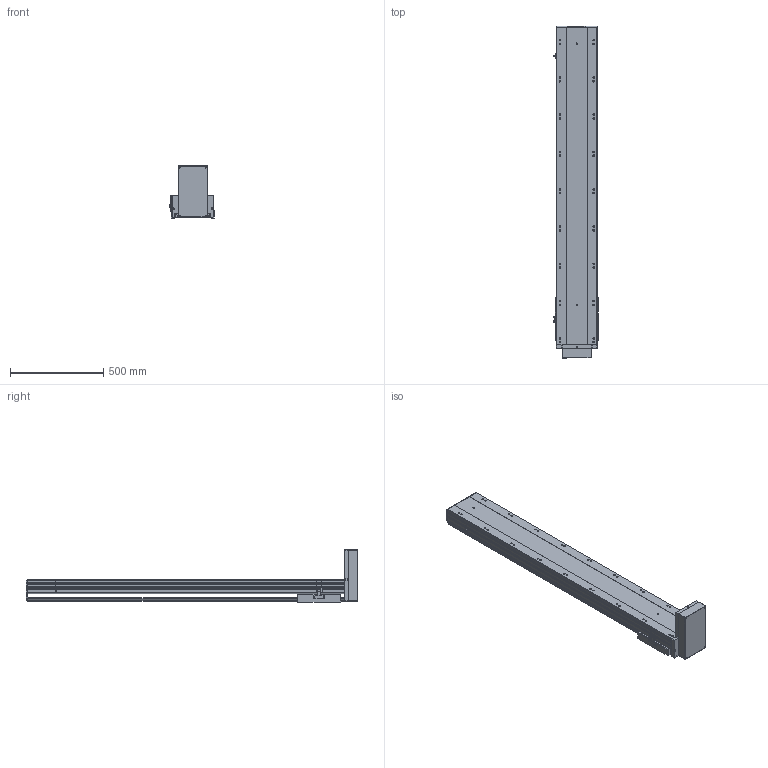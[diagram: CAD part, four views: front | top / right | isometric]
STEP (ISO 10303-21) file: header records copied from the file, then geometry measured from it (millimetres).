
FILE_DESCRIPTION (( 'STEP AP203' ), '1' );
FILE_NAME ('BTH22-L05-1400-BM-PCD145-M6-95.STEP', '2022-05-08T08:19:52', ( 'CXY' ), ( 'BT' ), 'SwSTEP 2.0', 'SolidWorks 2016', '' );
FILE_SCHEMA (( 'CONFIG_CONTROL_DESIGN' ));
Length unit declared in the file: millimetre
Products named in the file (7): BTH22-L05-1400-BM-PCD145-M6-95; BTH22-BM-04; H130-PCD145; BTH22-BM-HZ; BTH22-BM-01; BTH22-BM-06-M100; BTH22-BM-菁釱
Assembly tree (8 placements, depth 2):
  BTH22-L05-1400-BM-PCD145-M6-95
    BTH22-BM-菁釱
    BTH22-BM-01
    BTH22-BM-04  x3
    BTH22-BM-HZ
    BTH22-BM-06-M100
    H130-PCD145
Bounding box: 238.7 x 1781 x 279 mm (x, y, z)
Volume: 21678562.3 mm3; surface area: 2835410.9 mm2
Topology: 10 solids, 10 shells, 1112 faces, 3129 edges, 2039 vertices
Faces by surface type: plane 557, cylinder 439, bspline 74, cone 42
Entity records: 118696 total; most frequent: CARTESIAN_POINT 53558, ORIENTED_EDGE 13893, DIRECTION 12304, EDGE_CURVE 7452, VERTEX_POINT 4852, AXIS2_PLACEMENT_3D 4583, VECTOR 3138, LINE 3138
